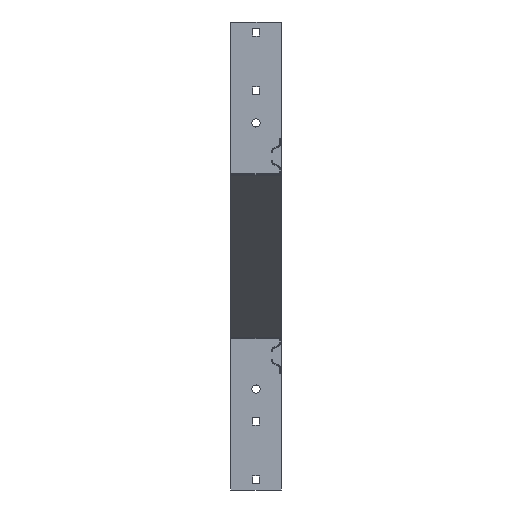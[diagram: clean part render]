
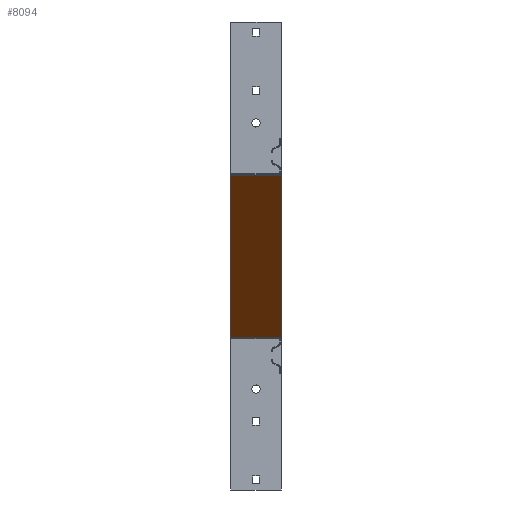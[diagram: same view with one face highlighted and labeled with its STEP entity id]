
A CAD part, left-side view. The second image highlights one B-rep face of the part: STEP entity #8094.
In plain terms, the highlighted planar face has unit normal (-0.598, 0, -0.801) as drawn and (0.598, 0, -0.801) by its records, which use the part's own axes.
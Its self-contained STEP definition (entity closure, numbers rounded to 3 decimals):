
#321 = LINE ( 'NONE', #9010, #4012 ) ;
#441 = CARTESIAN_POINT ( 'NONE',  ( 451.197, 0., -1.603 ) ) ;
#536 = FACE_OUTER_BOUND ( 'NONE', #4330, .T. ) ;
#640 = DIRECTION ( 'NONE',  ( 0., 1., 0. ) ) ;
#945 = DIRECTION ( 'NONE',  ( 0., 1., 0. ) ) ;
#1489 = VECTOR ( 'NONE', #1939, 1000. ) ;
#1614 = VECTOR ( 'NONE', #640, 1000. ) ;
#1631 = ORIENTED_EDGE ( 'NONE', *, *, #3221, .T. ) ;
#1752 = ORIENTED_EDGE ( 'NONE', *, *, #7412, .F. ) ;
#1939 = DIRECTION ( 'NONE',  ( -0.801, 0., -0.598 ) ) ;
#2034 = VECTOR ( 'NONE', #7189, 1000. ) ;
#2159 = EDGE_CURVE ( 'NONE', #7545, #7356, #8206, .T. ) ;
#2996 = VERTEX_POINT ( 'NONE', #5200 ) ;
#3221 = EDGE_CURVE ( 'NONE', #2996, #8477, #321, .T. ) ;
#3438 = LINE ( 'NONE', #441, #2034 ) ;
#3441 = DIRECTION ( 'NONE',  ( 0.801, 0., 0.598 ) ) ;
#3971 = CARTESIAN_POINT ( 'NONE',  ( 450.594, 87., -2.052 ) ) ;
#4012 = VECTOR ( 'NONE', #945, 1000. ) ;
#4270 = ORIENTED_EDGE ( 'NONE', *, *, #2159, .F. ) ;
#4305 = CARTESIAN_POINT ( 'NONE',  ( 450.594, 0., -2.052 ) ) ;
#4330 = EDGE_LOOP ( 'NONE', ( #6665, #1631, #1752, #4270 ) ) ;
#4741 = LINE ( 'NONE', #8357, #1489 ) ;
#5200 = CARTESIAN_POINT ( 'NONE',  ( 77.603, 0., -280.553 ) ) ;
#5274 = EDGE_CURVE ( 'NONE', #7545, #2996, #3438, .T. ) ;
#6277 = DIRECTION ( 'NONE',  ( -0.598, 0., 0.801 ) ) ;
#6665 = ORIENTED_EDGE ( 'NONE', *, *, #5274, .T. ) ;
#7033 = CARTESIAN_POINT ( 'NONE',  ( 77.603, 87., -280.553 ) ) ;
#7189 = DIRECTION ( 'NONE',  ( -0.801, 0., -0.598 ) ) ;
#7356 = VERTEX_POINT ( 'NONE', #3971 ) ;
#7359 = AXIS2_PLACEMENT_3D ( 'NONE', #7868, #6277, #3441 ) ;
#7412 = EDGE_CURVE ( 'NONE', #7356, #8477, #4741, .T. ) ;
#7545 = VERTEX_POINT ( 'NONE', #7682 ) ;
#7682 = CARTESIAN_POINT ( 'NONE',  ( 450.594, 0., -2.052 ) ) ;
#7868 = CARTESIAN_POINT ( 'NONE',  ( 451.197, 87., -1.603 ) ) ;
#8094 = ADVANCED_FACE ( 'NONE', ( #536 ), #9320, .F. ) ;
#8206 = LINE ( 'NONE', #4305, #1614 ) ;
#8357 = CARTESIAN_POINT ( 'NONE',  ( 451.197, 87., -1.603 ) ) ;
#8477 = VERTEX_POINT ( 'NONE', #7033 ) ;
#9010 = CARTESIAN_POINT ( 'NONE',  ( 77.603, 0., -280.553 ) ) ;
#9320 = PLANE ( 'NONE',  #7359 ) ;
